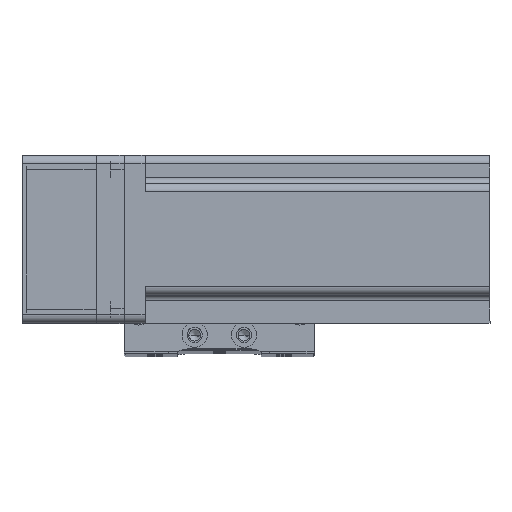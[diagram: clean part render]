
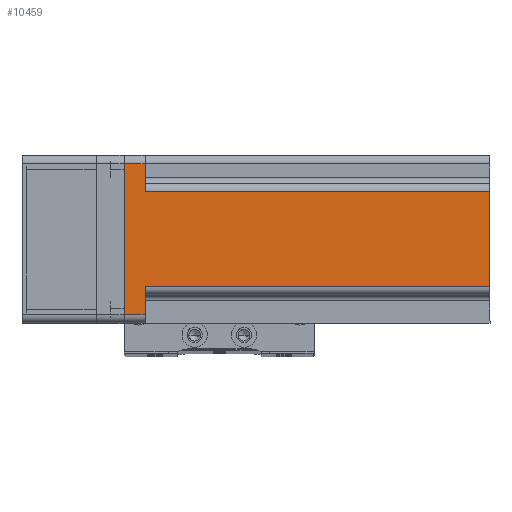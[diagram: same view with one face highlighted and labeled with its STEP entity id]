
A CAD part, top view. The second image highlights one B-rep face of the part: STEP entity #10459.
In plain terms, the highlighted planar face has unit normal (0, 0, 1) as drawn and (0, 1, 0) by its records, which use the part's own axes.
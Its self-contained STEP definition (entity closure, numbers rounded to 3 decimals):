
#329 = LINE ( 'NONE', #34584, #20242 ) ;
#482 = DIRECTION ( 'NONE',  ( 0., 0., 1. ) ) ;
#1506 = ORIENTED_EDGE ( 'NONE', *, *, #40758, .T. ) ;
#1877 = CARTESIAN_POINT ( 'NONE',  ( -17., 30., 130.7 ) ) ;
#2631 = CARTESIAN_POINT ( 'NONE',  ( 27., 30., 7.5 ) ) ;
#4153 = LINE ( 'NONE', #17987, #14067 ) ;
#4279 = VECTOR ( 'NONE', #45515, 1000. ) ;
#4967 = CARTESIAN_POINT ( 'NONE',  ( 30., 30., 0. ) ) ;
#4973 = EDGE_CURVE ( 'NONE', #10390, #28568, #24743, .T. ) ;
#7230 = ORIENTED_EDGE ( 'NONE', *, *, #39406, .T. ) ;
#8113 = ORIENTED_EDGE ( 'NONE', *, *, #4973, .T. ) ;
#9195 = VECTOR ( 'NONE', #17855, 1000. ) ;
#9216 = CARTESIAN_POINT ( 'NONE',  ( 17., 30., 130.7 ) ) ;
#9282 = LINE ( 'NONE', #17581, #29174 ) ;
#9376 = VECTOR ( 'NONE', #31110, 1000. ) ;
#10313 = CARTESIAN_POINT ( 'NONE',  ( 30., 30., 130.7 ) ) ;
#10390 = VERTEX_POINT ( 'NONE', #43008 ) ;
#10459 = ADVANCED_FACE ( 'NONE', ( #16845 ), #32524, .F. ) ;
#10642 = CARTESIAN_POINT ( 'NONE',  ( 17., 30., 7.5 ) ) ;
#14067 = VECTOR ( 'NONE', #47620, 1000. ) ;
#14096 = DIRECTION ( 'NONE',  ( 1., 0., 0. ) ) ;
#14741 = VECTOR ( 'NONE', #482, 1000. ) ;
#15474 = VERTEX_POINT ( 'NONE', #17055 ) ;
#16262 = VERTEX_POINT ( 'NONE', #36902 ) ;
#16845 = FACE_OUTER_BOUND ( 'NONE', #33454, .T. ) ;
#17055 = CARTESIAN_POINT ( 'NONE',  ( -27., 30., 0. ) ) ;
#17581 = CARTESIAN_POINT ( 'NONE',  ( -27., 30., 130.7 ) ) ;
#17855 = DIRECTION ( 'NONE',  ( -1., 0., 0. ) ) ;
#17987 = CARTESIAN_POINT ( 'NONE',  ( 20., 30., 7.5 ) ) ;
#18293 = ORIENTED_EDGE ( 'NONE', *, *, #42019, .F. ) ;
#19738 = CARTESIAN_POINT ( 'NONE',  ( 27., 30., 0. ) ) ;
#20002 = DIRECTION ( 'NONE',  ( 1., 0., 0. ) ) ;
#20242 = VECTOR ( 'NONE', #45510, 1000. ) ;
#22002 = ORIENTED_EDGE ( 'NONE', *, *, #35086, .T. ) ;
#22015 = EDGE_CURVE ( 'NONE', #34859, #15474, #37864, .T. ) ;
#22041 = EDGE_CURVE ( 'NONE', #16262, #10390, #28120, .T. ) ;
#23796 = CARTESIAN_POINT ( 'NONE',  ( -20., 30., 7.5 ) ) ;
#24743 = LINE ( 'NONE', #1877, #14741 ) ;
#24973 = DIRECTION ( 'NONE',  ( 0., 0., 1. ) ) ;
#28120 = LINE ( 'NONE', #23796, #36735 ) ;
#28568 = VERTEX_POINT ( 'NONE', #44161 ) ;
#29174 = VECTOR ( 'NONE', #24973, 1000. ) ;
#29659 = VERTEX_POINT ( 'NONE', #9216 ) ;
#31110 = DIRECTION ( 'NONE',  ( -1., 0., 0. ) ) ;
#32524 = PLANE ( 'NONE',  #40570 ) ;
#32996 = EDGE_CURVE ( 'NONE', #37546, #38752, #4153, .T. ) ;
#33454 = EDGE_LOOP ( 'NONE', ( #35109, #8113, #18293, #1506, #38594, #7230, #47947, #22002 ) ) ;
#34584 = CARTESIAN_POINT ( 'NONE',  ( 27., 30., 130.7 ) ) ;
#34859 = VERTEX_POINT ( 'NONE', #19738 ) ;
#35086 = EDGE_CURVE ( 'NONE', #15474, #16262, #9282, .T. ) ;
#35109 = ORIENTED_EDGE ( 'NONE', *, *, #22041, .T. ) ;
#36361 = DIRECTION ( 'NONE',  ( 0., -1., 0. ) ) ;
#36735 = VECTOR ( 'NONE', #20002, 1000. ) ;
#36902 = CARTESIAN_POINT ( 'NONE',  ( -27., 30., 7.5 ) ) ;
#37546 = VERTEX_POINT ( 'NONE', #2631 ) ;
#37695 = LINE ( 'NONE', #40049, #9195 ) ;
#37864 = LINE ( 'NONE', #4967, #9376 ) ;
#38073 = CARTESIAN_POINT ( 'NONE',  ( 17., 30., 130.7 ) ) ;
#38594 = ORIENTED_EDGE ( 'NONE', *, *, #32996, .F. ) ;
#38752 = VERTEX_POINT ( 'NONE', #10642 ) ;
#39406 = EDGE_CURVE ( 'NONE', #37546, #34859, #329, .T. ) ;
#40049 = CARTESIAN_POINT ( 'NONE',  ( 30., 30., 130.7 ) ) ;
#40570 = AXIS2_PLACEMENT_3D ( 'NONE', #10313, #36361, #14096 ) ;
#40758 = EDGE_CURVE ( 'NONE', #29659, #38752, #43841, .T. ) ;
#42019 = EDGE_CURVE ( 'NONE', #29659, #28568, #37695, .T. ) ;
#43008 = CARTESIAN_POINT ( 'NONE',  ( -17., 30., 7.5 ) ) ;
#43841 = LINE ( 'NONE', #38073, #4279 ) ;
#44161 = CARTESIAN_POINT ( 'NONE',  ( -17., 30., 130.7 ) ) ;
#45510 = DIRECTION ( 'NONE',  ( 0., 0., -1. ) ) ;
#45515 = DIRECTION ( 'NONE',  ( 0., 0., -1. ) ) ;
#47620 = DIRECTION ( 'NONE',  ( -1., 0., 0. ) ) ;
#47947 = ORIENTED_EDGE ( 'NONE', *, *, #22015, .T. ) ;
